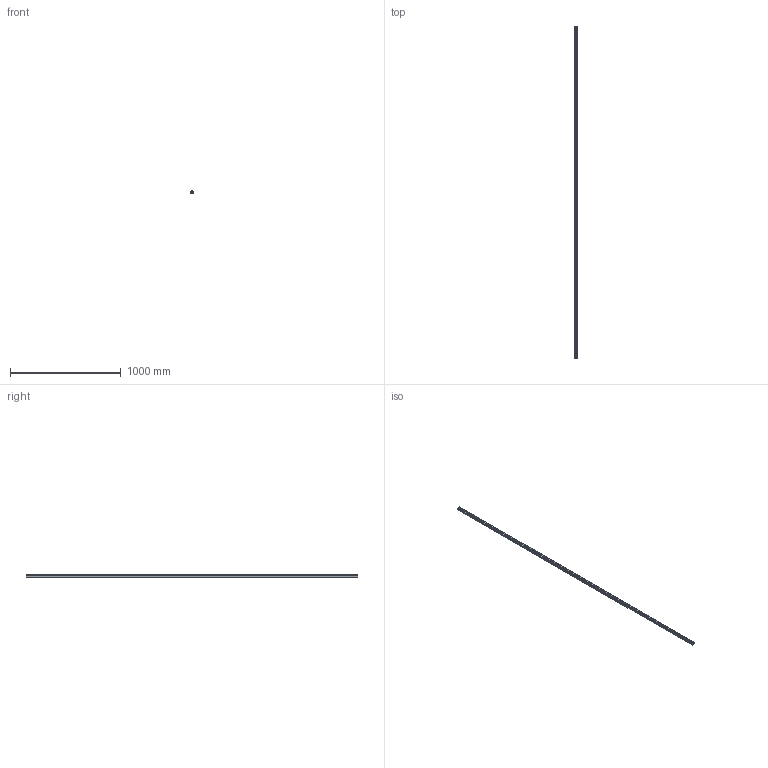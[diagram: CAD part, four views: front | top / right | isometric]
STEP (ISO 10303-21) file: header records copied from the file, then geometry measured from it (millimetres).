
FILE_DESCRIPTION((''),'2;1');
FILE_NAME('GS0302V','2002-12-27T',('Lipro doo'),('Lipro d.o.o.'),'PRO/ENGINEER BY PARAMETRIC TECHNOLOGY CORPORATION, 2001150','PRO/ENGINEER BY PARAMETRIC TECHNOLOGY CORPORATION, 2001150','');
FILE_SCHEMA(('CONFIG_CONTROL_DESIGN'));
Length unit declared in the file: millimetre
Products named in the file (1): GS0302V
Bounding box: 30 x 3000 x 20 mm (x, y, z)
Volume: 960000 mm3; surface area: 426640 mm2
Topology: 1 solids, 1 shells, 22 faces, 60 edges, 40 vertices
Faces by surface type: plane 22
Entity records: 722 total; most frequent: CARTESIAN_POINT 122, ORIENTED_EDGE 120, DIRECTION 104, VECTOR 60, LINE 60, EDGE_CURVE 60, VERTEX_POINT 40, AXIS2_PLACEMENT_3D 22
